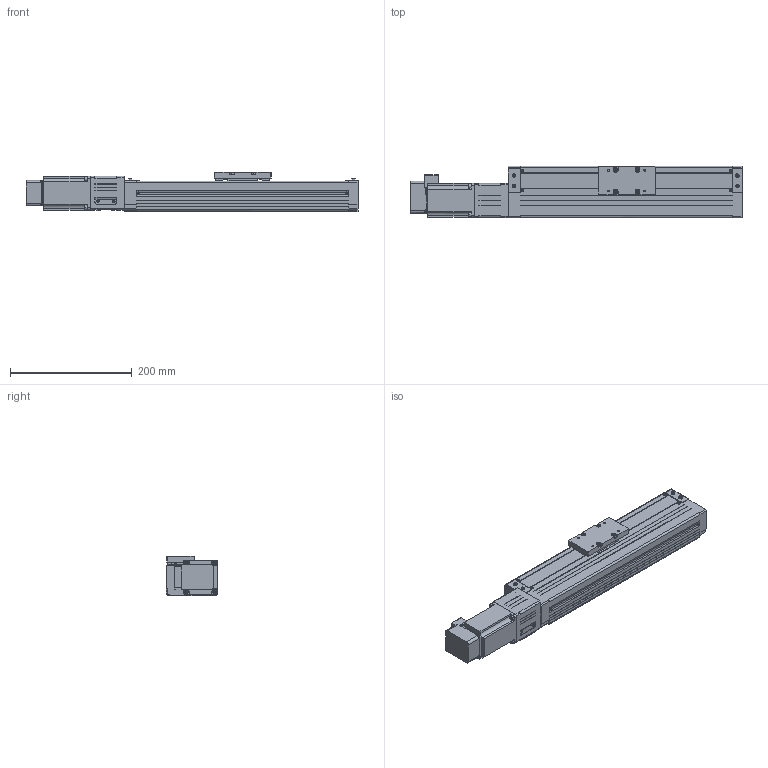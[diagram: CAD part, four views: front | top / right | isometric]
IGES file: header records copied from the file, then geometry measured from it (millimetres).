
Global section: file name: No Iges File Name specified; native system: AutoDesk Inventor R10; preprocessor: AutoDesk Inventor Iges Exporter R10; author: No Author specified; organization: No Organization specified; date: 20110702.133058; units: millimetre
Bounding box: 546.5 x 85 x 65 mm (x, y, z)
Surface area: 318066.6 mm2 (no closed solid volume)
Topology: 0 solids, 0 shells, 1083 faces, 6670 edges, 6642 vertices
Faces by surface type: bspline 1083
